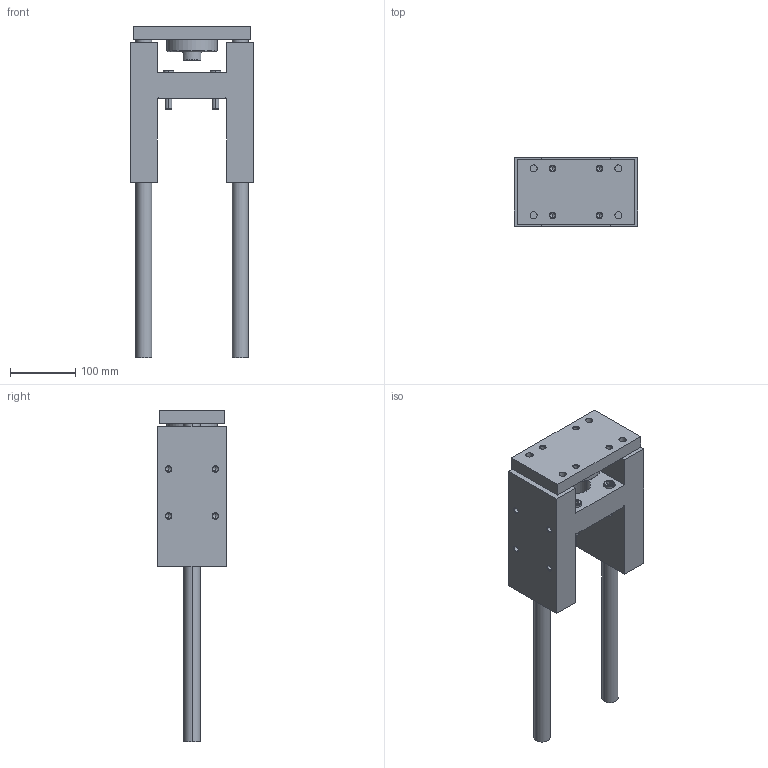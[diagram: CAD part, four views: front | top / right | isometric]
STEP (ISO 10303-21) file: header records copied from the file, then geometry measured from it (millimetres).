
FILE_DESCRIPTION (( 'STEP AP203' ), '1' );
FILE_NAME ('GB80-250.STEP', '2020-04-24T13:37:18', ( '' ), ( '' ), 'SwSTEP 2.0', 'SolidWorks 2019', '' );
FILE_SCHEMA (( 'CONFIG_CONTROL_DESIGN' ));
Length unit declared in the file: millimetre
Products named in the file (1): GB80-250
Bounding box: 189 x 105 x 508 mm (x, y, z)
Volume: 2941872.4 mm3; surface area: 358941.5 mm2
Topology: 6 solids, 6 shells, 329 faces, 728 edges, 412 vertices
Faces by surface type: cone 134, cylinder 98, plane 97
Entity records: 9631 total; most frequent: CARTESIAN_POINT 2242, DIRECTION 1662, ORIENTED_EDGE 1392, EDGE_CURVE 696, AXIS2_PLACEMENT_3D 664, VERTEX_POINT 412, EDGE_LOOP 392, CIRCLE 334
